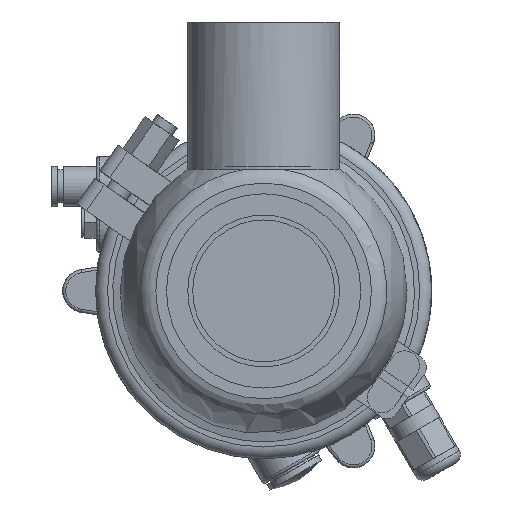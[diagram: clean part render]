
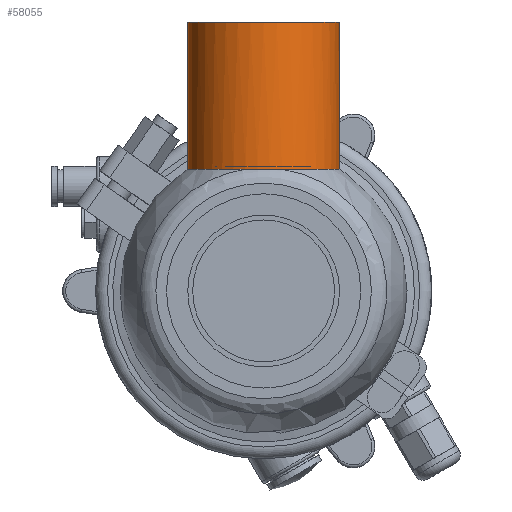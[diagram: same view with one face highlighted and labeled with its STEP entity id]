
A CAD part, front view. The second image highlights one B-rep face of the part: STEP entity #58055.
In plain terms, the highlighted cylindrical face has radius 25.4 mm (diameter 50.8 mm), a full revolution.
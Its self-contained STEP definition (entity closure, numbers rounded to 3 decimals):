
#291 = CARTESIAN_POINT ( 'NONE',  ( 40.682, -25.322, -2.053 ) ) ;
#1392 = VERTEX_POINT ( 'NONE', #48511 ) ;
#3955 = CARTESIAN_POINT ( 'NONE',  ( 40.729, -24.652, 6.117 ) ) ;
#5105 = ORIENTED_EDGE ( 'NONE', *, *, #17056, .T. ) ;
#6729 = AXIS2_PLACEMENT_3D ( 'NONE', #51071, #46458, #31939 ) ;
#8129 = B_SPLINE_CURVE_WITH_KNOTS ( 'NONE', 3,
 ( #37877, #47412, #52329, #38808, #19640, #23940, #47129, #291, #43736, #24864, #42531, #23653 ),
 .UNSPECIFIED., .F., .F.,
 ( 4, 2, 2, 2, 2, 4 ),
 ( 0., 0.003, 0.006, 0.008, 0.009, 0.012 ),
 .UNSPECIFIED. ) ;
#10260 = VERTEX_POINT ( 'NONE', #59061 ) ;
#17056 = EDGE_CURVE ( 'NONE', #25205, #10260, #8129, .T. ) ;
#17408 = ORIENTED_EDGE ( 'NONE', *, *, #47255, .T. ) ;
#19640 = CARTESIAN_POINT ( 'NONE',  ( 40.67, -25.4, 1.042 ) ) ;
#23177 = DIRECTION ( 'NONE',  ( 0., 0., 1. ) ) ;
#23653 = CARTESIAN_POINT ( 'NONE',  ( 40.729, -24.652, -6.117 ) ) ;
#23940 = CARTESIAN_POINT ( 'NONE',  ( 40.669, -25.4, -0.503 ) ) ;
#24864 = CARTESIAN_POINT ( 'NONE',  ( 40.711, -25.088, -4.099 ) ) ;
#25205 = VERTEX_POINT ( 'NONE', #3955 ) ;
#26222 = EDGE_LOOP ( 'NONE', ( #35778, #5105 ) ) ;
#26966 = FACE_OUTER_BOUND ( 'NONE', #51089, .T. ) ;
#30258 = DIRECTION ( 'NONE',  ( 1., 0., 0. ) ) ;
#31939 = DIRECTION ( 'NONE',  ( 0., 0., 1. ) ) ;
#32267 = CYLINDRICAL_SURFACE ( 'NONE', #6729, 25.4 ) ;
#35229 = CARTESIAN_POINT ( 'NONE',  ( 40.729, 0., 0. ) ) ;
#35778 = ORIENTED_EDGE ( 'NONE', *, *, #42608, .T. ) ;
#37877 = CARTESIAN_POINT ( 'NONE',  ( 40.729, -24.652, 6.117 ) ) ;
#38808 = CARTESIAN_POINT ( 'NONE',  ( 40.681, -25.337, 2.066 ) ) ;
#39401 = AXIS2_PLACEMENT_3D ( 'NONE', #41139, #59588, #23177 ) ;
#41139 = CARTESIAN_POINT ( 'NONE',  ( 90., 0., 0. ) ) ;
#42531 = CARTESIAN_POINT ( 'NONE',  ( 40.729, -24.902, -5.113 ) ) ;
#42608 = EDGE_CURVE ( 'NONE', #10260, #25205, #52681, .T. ) ;
#43736 = CARTESIAN_POINT ( 'NONE',  ( 40.689, -25.275, -2.566 ) ) ;
#46458 = DIRECTION ( 'NONE',  ( -1., 0., 0. ) ) ;
#47129 = CARTESIAN_POINT ( 'NONE',  ( 40.672, -25.385, -1.022 ) ) ;
#47255 = EDGE_CURVE ( 'NONE', #1392, #1392, #58033, .T. ) ;
#47412 = CARTESIAN_POINT ( 'NONE',  ( 40.729, -24.902, 5.113 ) ) ;
#47982 = DIRECTION ( 'NONE',  ( 0., 0., 1. ) ) ;
#48511 = CARTESIAN_POINT ( 'NONE',  ( 90., 0., 25.4 ) ) ;
#51071 = CARTESIAN_POINT ( 'NONE',  ( 0., 0., 0. ) ) ;
#51089 = EDGE_LOOP ( 'NONE', ( #17408 ) ) ;
#52329 = CARTESIAN_POINT ( 'NONE',  ( 40.711, -25.088, 4.101 ) ) ;
#52681 = CIRCLE ( 'NONE', #60591, 25.4 ) ;
#56592 = FACE_OUTER_BOUND ( 'NONE', #26222, .T. ) ;
#58033 = CIRCLE ( 'NONE', #39401, 25.4 ) ;
#58055 = ADVANCED_FACE ( 'NONE', ( #56592, #26966 ), #32267, .T. ) ;
#59061 = CARTESIAN_POINT ( 'NONE',  ( 40.729, -24.652, -6.117 ) ) ;
#59588 = DIRECTION ( 'NONE',  ( -1., 0., 0. ) ) ;
#60591 = AXIS2_PLACEMENT_3D ( 'NONE', #35229, #30258, #47982 ) ;
